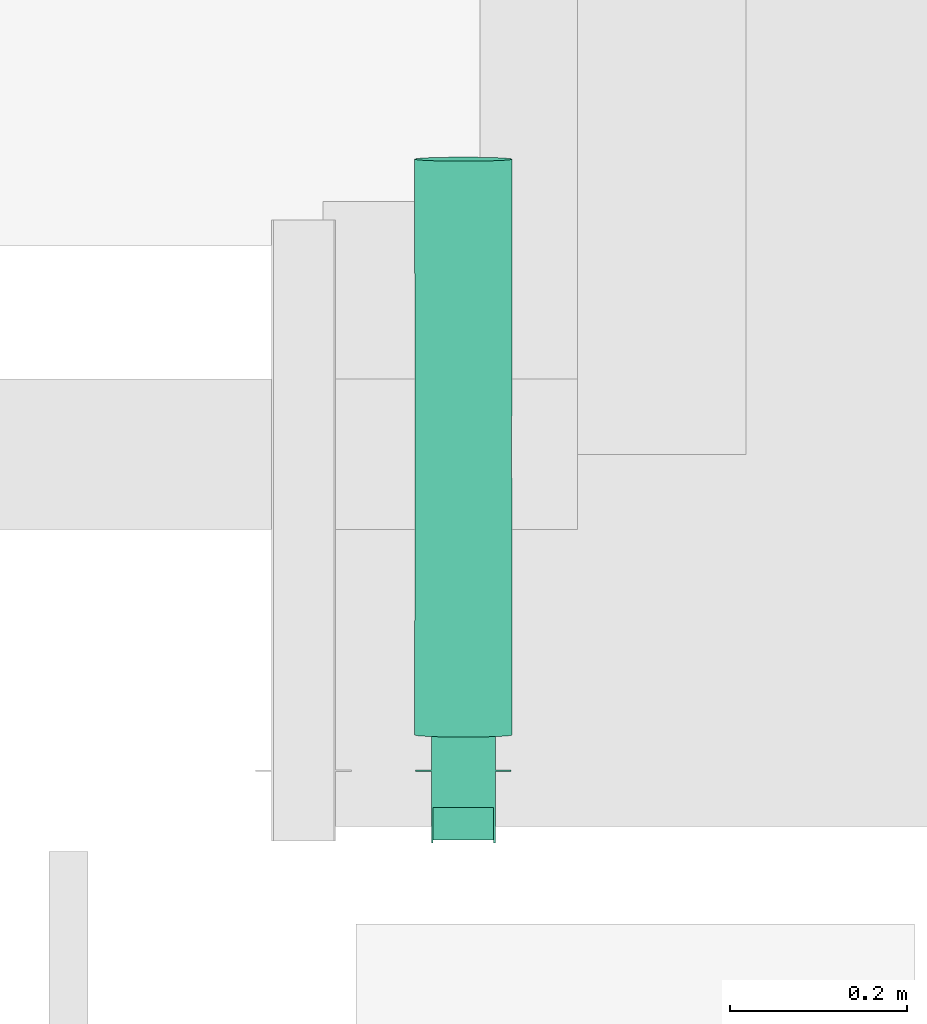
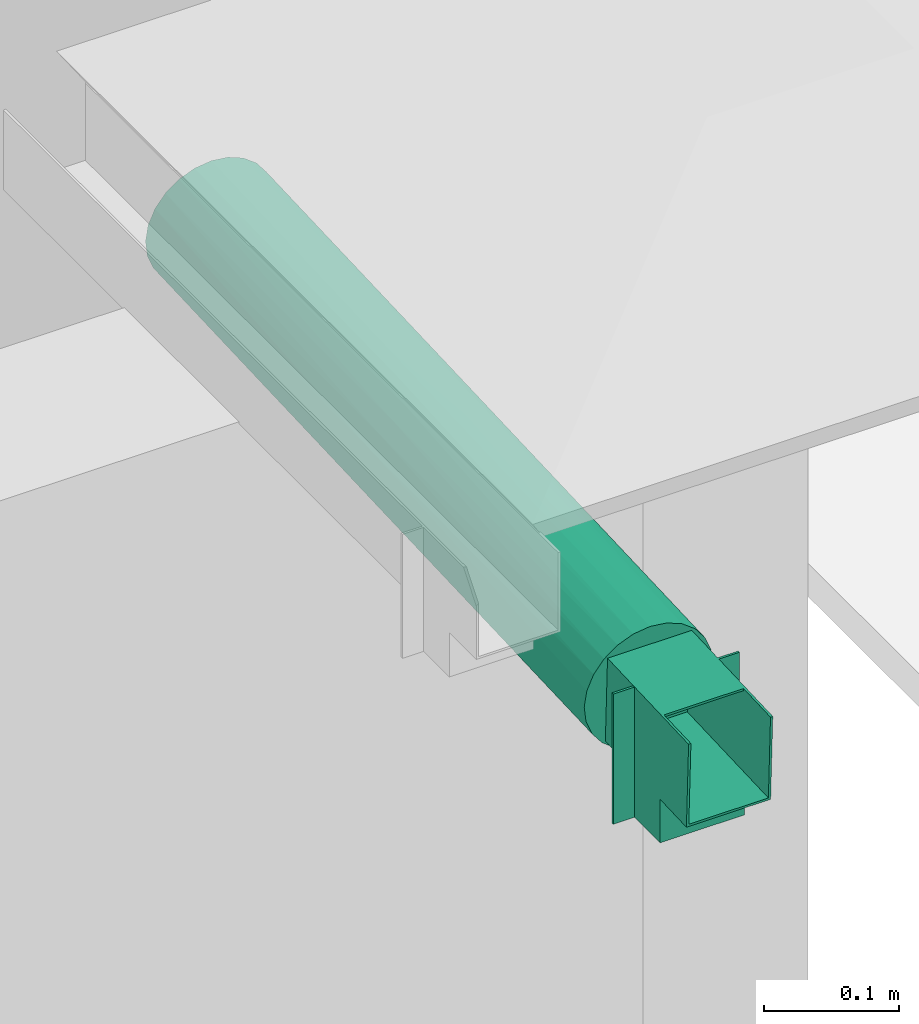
# One storey, part 38 of 38: 1 pipe fitting.
"""IFC4X3_ADD2 building model written with IfcOpenShell, lengths in millimetres."""

from ifc_helpers import new_model, si_unit, direction, frame, origin_with_axes, place, context, subcontext, project, spatial, polygons, source, transform, mapped, element, save


model = new_model("IFC4X3_ADD2")

# Units and contexts
model_context = context("Model", 3, precision=1e-05, world=origin_with_axes(), true_north=direction((0.0, 1.0)))
body_context = subcontext(model_context, "Body", "Model", "MODEL_VIEW")
ifc_project = project(units=[si_unit("LENGTHUNIT", "METRE", prefix="MILLI"), si_unit("AREAUNIT", "SQUARE_METRE"), si_unit("VOLUMEUNIT", "CUBIC_METRE"), si_unit("PLANEANGLEUNIT", "RADIAN"), si_unit("TIMEUNIT", "SECOND"), si_unit("MASSUNIT", "GRAM")], contexts=[model_context])

# Site, building, storey
site_placement = place(None, origin_with_axes())
site = spatial("IfcSite", under=ifc_project, at=site_placement, Name="Site", CompositionType="ELEMENT")
building_placement = place(site_placement, origin_with_axes())
building = spatial("IfcBuilding", under=site, at=building_placement, Name="IFC Building Story")
storey_placement = place(building_placement, frame((0.0, 0.0, 10800.0), z_axis=(0.0, 0.0, 1.0), x_axis=(1.0, 0.0, 0.0)))
storey = spatial("IfcBuildingStorey", under=building, at=storey_placement, Name="030", Elevation=10800.0)

# Pipe fitting
shared_shape = source(origin_with_axes(), body_context, "Body", "Tessellation", [
    polygons([(2.59527223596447, 80.2423912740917, 117.667377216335), (2.59527223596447, 80.2423912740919, 3.79003495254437e-11), (20.5952722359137, 80.2423912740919, 7.30935312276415e-11), (20.5952722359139, 80.2423912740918, 41.0150039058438), (20.5952722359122, 80.2423912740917, 117.667377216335), (2.59527223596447, 82.2423912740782, 117.667377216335), (2.59527223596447, 82.2423912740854, 7.28228144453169e-11), (110.595272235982, 82.242391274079, 0.0), (110.595272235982, 82.2423912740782, 117.667377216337), (110.595272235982, 80.2423912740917, 117.667377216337), (110.595272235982, 80.2423912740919, 0.0), (92.5952722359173, 82.2423912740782, 117.667377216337), (92.5952722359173, 80.2423912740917, 117.667377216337), (92.5952722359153, 82.2423912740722, 41.0983372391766), (92.5952722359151, 80.2423912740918, 41.0150039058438), (20.5952722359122, 82.2423912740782, 117.667377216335), (20.5952722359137, 82.2423912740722, 41.0983372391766), (20.5952722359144, 42.2423912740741, 1.12347464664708e-10), (20.5952722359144, 42.2423912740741, 39.4316705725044), (92.5952722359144, 42.2423912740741, 39.4316705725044), (92.5952722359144, 42.2423912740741, 1.12347464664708e-10), (92.5952722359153, 80.2423912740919, 7.20106640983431e-11), (22.5952722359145, 82.2423912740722, 41.0983372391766), (22.5952722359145, 82.2423912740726, 1.08015996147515e-10), (22.5952722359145, 44.2423912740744, 9.33972899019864e-11), (90.5952722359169, 44.2423912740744, 9.33972899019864e-11), (90.5952722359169, 82.2423912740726, 1.08015996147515e-10), (90.5952722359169, 82.2423912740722, 41.0983372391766), (90.5952722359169, 44.2423912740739, 39.515003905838), (22.5952722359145, 44.2423912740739, 39.515003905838)], [[[4, 5, 1]], [[4, 1, 2]], [[2, 3, 4]], [[6, 7, 2, 1]], [[8, 9, 10, 11]], [[9, 12, 13, 10]], [[13, 12, 14, 15]], [[16, 5, 4, 17]], [[16, 6, 1, 5]], [[18, 19, 4, 3]], [[20, 21, 22, 15]], [[19, 18, 21, 20]], [[17, 23, 24]], [[17, 24, 7]], [[7, 6, 16]], [[7, 16, 17]], [[3, 2, 7]], [[3, 7, 24]], [[22, 21, 26]], [[22, 26, 27]], [[27, 8, 11]], [[27, 11, 22]], [[21, 18, 25]], [[21, 25, 26]], [[18, 3, 24]], [[18, 24, 25]], [[15, 14, 28]], [[4, 19, 30]], [[4, 30, 23]], [[23, 17, 4]], [[19, 20, 29]], [[19, 29, 30]], [[20, 15, 28]], [[20, 28, 29]], [[26, 29, 28, 27]], [[30, 25, 24, 23]], [[29, 26, 25, 30]], [[14, 12, 9]], [[14, 9, 8]], [[8, 27, 14]], [[27, 28, 14]], [[15, 22, 11]], [[11, 10, 13]], [[11, 13, 15]]]),
    polygons([(3.46935179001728, 121.008650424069, 95.4580331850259), (1.59527223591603, 121.601263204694, 81.2353264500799), (3.46935179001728, 122.193875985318, 67.0126197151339), (8.9638750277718, 122.746103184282, 53.7591669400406), (17.7043992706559, 123.220311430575, 42.3781690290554), (29.0952722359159, 123.584184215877, 33.6452221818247), (42.3602247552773, 123.812924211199, 28.1554622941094), (56.5952722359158, 123.890943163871, 26.2830074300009), (70.8303197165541, 123.812924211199, 28.1554622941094), (84.0952722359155, 123.584184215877, 33.6452221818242), (95.4861452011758, 123.220311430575, 42.3781690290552), (104.22666944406, 122.746103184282, 53.75916694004), (109.721192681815, 122.193875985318, 67.0126197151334), (111.595272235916, 121.601263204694, 81.2353264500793), (109.721192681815, 121.008650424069, 95.4580331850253), (104.22666944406, 120.456423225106, 108.711485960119), (95.4861452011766, 119.982214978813, 120.092483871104), (84.0952722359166, 119.618342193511, 128.825430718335), (70.8303197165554, 119.389602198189, 134.31519060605), (56.595272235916, 119.311583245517, 136.187645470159), (42.3602247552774, 119.389602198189, 134.31519060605), (29.095272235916, 119.618342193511, 128.825430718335), (17.704399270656, 119.982214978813, 120.092483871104), (8.96387502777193, 120.456423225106, 108.71148596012), (29.095272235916, 769.054839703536, 155.885284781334), (42.3602247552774, 768.826099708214, 161.375044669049), (56.5952722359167, 768.748080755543, 163.247499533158), (70.8303197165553, 768.826099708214, 161.375044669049), (84.0952722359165, 769.054839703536, 155.885284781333), (95.4861452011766, 769.418712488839, 147.152337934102), (104.22666944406, 769.892920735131, 135.771340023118), (109.721192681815, 770.445147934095, 122.517887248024), (111.595272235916, 771.037760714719, 108.295180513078), (109.721192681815, 771.630373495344, 94.0724737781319), (104.22666944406, 772.182600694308, 80.8190210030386), (95.4861452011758, 772.6568089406, 69.4380230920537), (84.0952722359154, 773.020681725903, 60.705076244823), (70.8303197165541, 773.249421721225, 55.215316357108), (56.5952722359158, 773.327440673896, 53.3428614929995), (42.3602247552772, 773.249421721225, 55.215316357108), (29.0952722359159, 773.020681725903, 60.7050762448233), (17.7043992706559, 772.6568089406, 69.438023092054), (8.96387502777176, 772.182600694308, 80.8190210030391), (3.46935179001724, 771.630373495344, 94.0724737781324), (1.59527223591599, 771.037760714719, 108.295180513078), (3.46935179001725, 770.445147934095, 122.517887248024), (8.9638750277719, 769.892920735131, 135.771340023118), (17.7043992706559, 769.418712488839, 147.152337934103), (77.6428610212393, 448.434900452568, 43.9959306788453), (67.0575535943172, 483.984405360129, 42.2920262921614), (67.0575535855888, 408.654618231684, 147.23848065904), (77.6428610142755, 444.204123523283, 145.534576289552), (56.5952722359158, 382.618184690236, 37.0633091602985), (56.5952722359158, 514.600199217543, 42.5625597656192), (100.229705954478, 447.71338083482, 61.3124012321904), (111.124739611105, 446.020648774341, 101.937970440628), (56.5952722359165, 510.020839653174, 152.467197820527), (90.0771508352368, 448.136037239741, 51.1686476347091), (107.408646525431, 447.195734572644, 73.735911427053), (111.124739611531, 446.618375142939, 87.5925365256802), (56.595272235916, 378.038831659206, 146.967947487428), (107.408646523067, 445.443289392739, 115.794595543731), (90.0771508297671, 444.502986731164, 138.361859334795), (100.22970595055, 444.92564313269, 128.218105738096), (23.1133935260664, 444.502988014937, 138.3618592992), (35.5476832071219, 444.20412714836, 145.534576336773), (46.1329905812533, 479.488667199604, 150.189899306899), (12.9608384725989, 444.925643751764, 128.21810570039), (46.132990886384, 413.150363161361, 39.340607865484), (35.5476834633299, 448.434900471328, 43.9959306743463), (5.78189792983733, 445.443289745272, 115.794595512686), (2.06580485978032, 446.020648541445, 101.937970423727), (2.06580486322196, 446.618375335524, 87.5925365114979), (5.78189795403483, 447.195734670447, 73.7359114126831), (12.9608385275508, 447.713380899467, 61.3124012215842), (23.1133936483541, 448.136037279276, 51.1686476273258)], [[[1, 2, 3]], [[1, 3, 4]], [[1, 4, 5]], [[1, 5, 6]], [[1, 6, 7]], [[1, 7, 8]], [[1, 8, 9]], [[1, 9, 10]], [[1, 10, 11]], [[1, 11, 12]], [[1, 12, 13]], [[1, 13, 14]], [[1, 14, 15]], [[1, 15, 16]], [[1, 16, 17]], [[1, 17, 18]], [[1, 18, 19]], [[1, 19, 20]], [[1, 20, 21]], [[1, 21, 22]], [[1, 22, 23]], [[1, 23, 24]], [[25, 26, 27]], [[25, 27, 28]], [[25, 28, 29]], [[25, 29, 30]], [[25, 30, 31]], [[25, 31, 32]], [[25, 32, 33]], [[25, 33, 34]], [[25, 34, 35]], [[25, 35, 36]], [[25, 36, 37]], [[25, 37, 38]], [[25, 38, 39]], [[25, 39, 40]], [[25, 40, 41]], [[25, 41, 42]], [[25, 42, 43]], [[25, 43, 44]], [[25, 44, 45]], [[25, 45, 46]], [[25, 46, 47]], [[25, 47, 48]], [[49, 50, 38]], [[28, 51, 52]], [[50, 53, 54, 39]], [[37, 49, 38]], [[55, 36, 35]], [[14, 56, 15]], [[28, 27, 57]], [[37, 36, 58]], [[9, 50, 49]], [[59, 35, 34]], [[39, 38, 50]], [[53, 50, 9]], [[58, 49, 37]], [[9, 8, 53]], [[59, 55, 35]], [[10, 49, 58]], [[55, 58, 36]], [[11, 58, 55]], [[55, 59, 12]], [[11, 55, 12]], [[60, 14, 13]], [[9, 49, 10]], [[56, 60, 33]], [[51, 57, 61, 20]], [[62, 32, 31]], [[52, 63, 29]], [[18, 52, 19]], [[30, 64, 31]], [[52, 29, 28]], [[16, 64, 17]], [[63, 64, 30]], [[30, 29, 63]], [[28, 57, 51]], [[20, 19, 51]], [[32, 56, 33]], [[15, 56, 62]], [[60, 59, 34]], [[14, 60, 56]], [[59, 60, 13]], [[16, 62, 64]], [[64, 62, 31]], [[17, 64, 63]], [[63, 52, 18]], [[33, 60, 34]], [[62, 56, 32]], [[12, 59, 13]], [[15, 62, 16]], [[17, 63, 18]], [[51, 19, 52]], [[10, 58, 11]], [[65, 66, 25]], [[67, 21, 61]], [[66, 26, 25]], [[67, 26, 66]], [[68, 48, 47]], [[40, 69, 70]], [[67, 61, 57, 27]], [[25, 48, 65]], [[69, 54, 53, 8]], [[71, 47, 46]], [[21, 66, 22]], [[26, 67, 27]], [[21, 20, 61]], [[23, 68, 24]], [[22, 65, 23]], [[22, 66, 65]], [[24, 71, 1]], [[23, 65, 68]], [[68, 71, 24]], [[72, 71, 46]], [[72, 2, 1]], [[68, 65, 48]], [[73, 72, 45]], [[71, 68, 47]], [[74, 44, 43]], [[40, 39, 54]], [[69, 7, 70]], [[42, 75, 43]], [[70, 41, 40]], [[70, 76, 41]], [[6, 70, 7]], [[42, 41, 76]], [[5, 76, 6]], [[8, 7, 69]], [[44, 73, 45]], [[3, 73, 74]], [[45, 72, 46]], [[2, 72, 73]], [[3, 74, 4]], [[4, 74, 75]], [[4, 75, 5]], [[5, 75, 76]], [[76, 70, 6]], [[76, 75, 42]], [[74, 73, 44]], [[75, 74, 43]], [[40, 54, 69]], [[2, 73, 3]], [[21, 67, 66]], [[71, 72, 1]]]),
    polygons([(90.5952722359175, 120.083261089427, 117.667377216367), (22.5952722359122, 120.083261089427, 117.667377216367), (22.5952722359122, 120.000000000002, 119.665643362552), (90.5952722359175, 120.000000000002, 119.665643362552), (90.5952722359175, 40.0166903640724, 114.3312701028), (90.5952722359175, 39.9334292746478, 116.329536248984), (22.5952722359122, 39.9334292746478, 116.329536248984), (22.5952722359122, 40.0166903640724, 114.3312701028)], [[[1, 2, 3, 4]], [[5, 6, 7, 8]], [[2, 1, 5, 8]], [[4, 3, 7, 6]], [[3, 2, 8, 7]], [[1, 4, 6, 5]]]),
    polygons([(92.5952722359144, 0.0, 114.665643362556), (90.5952722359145, 0.0, 114.665643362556), (90.5952722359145, 3.11934390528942, 39.8013896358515), (22.5952722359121, 3.11934390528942, 39.8013896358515), (22.5952722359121, 0.0, 114.665643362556), (20.5952722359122, 0.0, 114.665643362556), (20.5952722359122, 3.20252640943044, 37.8050095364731), (92.5952722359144, 3.20252640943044, 37.8050095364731), (20.5952722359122, 123.202526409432, 42.8050095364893), (92.5952722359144, 123.202526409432, 42.8050095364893), (22.5952722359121, 123.119343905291, 44.8013896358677), (22.5952722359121, 120.0, 119.665643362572), (90.5952722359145, 123.119343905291, 44.8013896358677), (90.5952722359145, 120.0, 119.665643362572), (92.5952722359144, 120.0, 119.665643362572), (20.5952722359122, 120.0, 119.665643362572)], [[[4, 5, 6]], [[4, 6, 7]], [[7, 8, 3]], [[7, 3, 4]], [[8, 1, 2]], [[8, 2, 3]], [[9, 10, 8, 7]], [[11, 12, 5, 4]], [[13, 11, 4, 3]], [[14, 13, 3, 2]], [[13, 14, 15]], [[13, 15, 10]], [[10, 9, 11]], [[10, 11, 13]], [[9, 16, 12]], [[9, 12, 11]], [[10, 15, 1, 8]], [[16, 9, 7, 6]], [[12, 16, 6, 5]], [[15, 14, 2, 1]]]),
])
pipe_fitting_placement = place(storey_placement, frame((654.404727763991, 43071.4972198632, 485.0), z_axis=(0.0, 0.0, 1.0), x_axis=(1.0, 0.0, 0.0)))
element("IfcPipeFitting", 1, at=pipe_fitting_placement, inside=storey, Name="Afwerkstuk spuwer 70 x 70 RVS:Type 1", ObjectType="Afwerkstuk spuwer 70 x 70 RVS:Type 1", PredefinedType="EXIT", context=body_context, shape_type="MappedRepresentation", body=[
    mapped(shared_shape, transform((0.0, 0.0, 0.0))),
])

save(model, "model.ifc")
